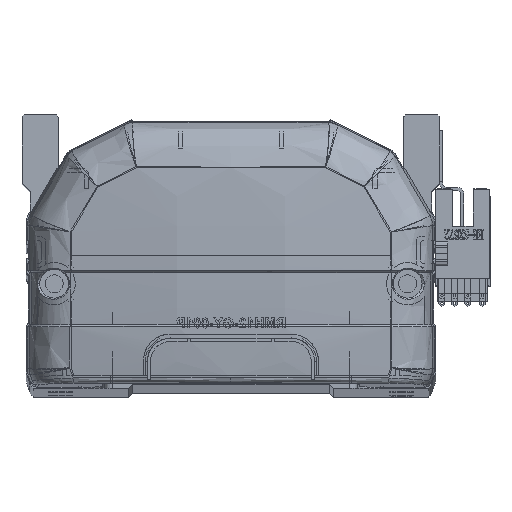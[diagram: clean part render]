
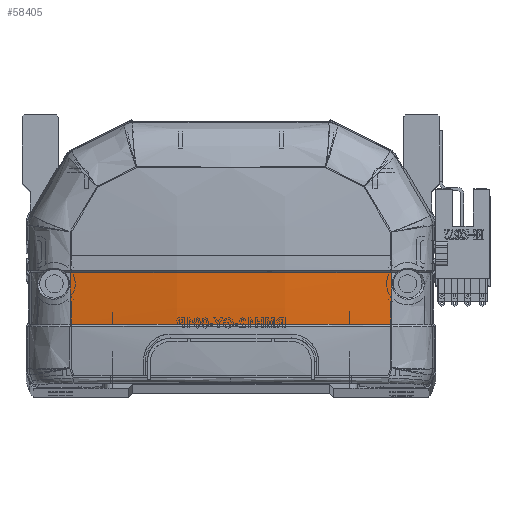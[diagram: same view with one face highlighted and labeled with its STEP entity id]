
A CAD part, top view. The second image highlights one B-rep face of the part: STEP entity #58405.
In plain terms, the highlighted free-form (B-spline) face has degree [3, 3] with [4, 4] control points.
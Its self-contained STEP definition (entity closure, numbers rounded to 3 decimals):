
#267 = CARTESIAN_POINT ( 'NONE',  ( -39.966, 24.412, -6.306 ) ) ;
#666 = CARTESIAN_POINT ( 'NONE',  ( -40.461, 20.111, -6.066 ) ) ;
#1075 = CARTESIAN_POINT ( 'NONE',  ( 13.598, 15.499, -10.032 ) ) ;
#1279 = CARTESIAN_POINT ( 'NONE',  ( -13.598, 15.499, -10.032 ) ) ;
#2257 = EDGE_CURVE ( 'NONE', #8873, #34744, #29351, .T. ) ;
#2942 = CARTESIAN_POINT ( 'NONE',  ( 13.38, 15.83, -8.984 ) ) ;
#2985 = ORIENTED_EDGE ( 'NONE', *, *, #26620, .T. ) ;
#3512 = ORIENTED_EDGE ( 'NONE', *, *, #37826, .T. ) ;
#4820 = CARTESIAN_POINT ( 'NONE',  ( 39.963, 28.706, -6.372 ) ) ;
#5305 = B_SPLINE_CURVE_WITH_KNOTS ( 'NONE', 3,
 ( #33678, #267, #56806, #57008 ),
 .UNSPECIFIED., .F., .F.,
 ( 4, 4 ),
 ( 0., 1. ),
 .UNSPECIFIED. ) ;
#5951 = CARTESIAN_POINT ( 'NONE',  ( 40.461, 28.832, -6.296 ) ) ;
#6714 = CARTESIAN_POINT ( 'NONE',  ( -39.963, 28.706, -6.372 ) ) ;
#7564 = ORIENTED_EDGE ( 'NONE', *, *, #2257, .F. ) ;
#7791 = B_SPLINE_CURVE_WITH_KNOTS ( 'NONE', 3,
 ( #18292, #55493, #14328, #23556, #56330, #9611 ),
 .UNSPECIFIED., .F., .F.,
 ( 4, 2, 4 ),
 ( 0., 0.5, 1. ),
 .UNSPECIFIED. ) ;
#8873 = VERTEX_POINT ( 'NONE', #51504 ) ;
#9611 = CARTESIAN_POINT ( 'NONE',  ( 39.963, 28.706, -6.372 ) ) ;
#10324 = VERTEX_POINT ( 'NONE', #6714 ) ;
#10330 = CARTESIAN_POINT ( 'NONE',  ( 39.973, 20.12, -6.142 ) ) ;
#11074 = CARTESIAN_POINT ( 'NONE',  ( -40.461, 24.47, -6.231 ) ) ;
#11596 = CARTESIAN_POINT ( 'NONE',  ( 39.963, 28.706, -6.372 ) ) ;
#14075 =( BOUNDED_SURFACE ( )  B_SPLINE_SURFACE ( 3, 3, ( 
 ( #43111, #15046, #56786, #5951 ),
 ( #1075, #47761, #19752, #34267 ),
 ( #1279, #43492, #28772, #15439 ),
 ( #48159, #666, #11074, #53659 ) ),
 .UNSPECIFIED., .F., .F., .F. ) 
 B_SPLINE_SURFACE_WITH_KNOTS ( ( 4, 4 ),
 ( 4, 4 ),
 ( 0., 1. ),
 ( 0., 1. ),
 .UNSPECIFIED. ) 
 GEOMETRIC_REPRESENTATION_ITEM ( )  RATIONAL_B_SPLINE_SURFACE ( (
 ( 1., 1., 1., 1.),
 ( 0.992, 0.992, 0.992, 0.992),
 ( 0.992, 0.992, 0.992, 0.992),
 ( 1., 1., 1., 1.) ) ) 
 REPRESENTATION_ITEM ( '' )  SURFACE ( )  );
#14328 = CARTESIAN_POINT ( 'NONE',  ( -13.373, 28.707, -9.468 ) ) ;
#15046 = CARTESIAN_POINT ( 'NONE',  ( 40.461, 20.111, -6.066 ) ) ;
#15439 = CARTESIAN_POINT ( 'NONE',  ( -13.598, 28.769, -10.535 ) ) ;
#18292 = CARTESIAN_POINT ( 'NONE',  ( -39.963, 28.706, -6.372 ) ) ;
#19752 = CARTESIAN_POINT ( 'NONE',  ( 13.598, 24.342, -10.47 ) ) ;
#20234 = ORIENTED_EDGE ( 'NONE', *, *, #58622, .F. ) ;
#23556 = CARTESIAN_POINT ( 'NONE',  ( 13.375, 28.707, -9.468 ) ) ;
#24438 = CARTESIAN_POINT ( 'NONE',  ( -39.985, 15.83, -5.879 ) ) ;
#26620 = EDGE_CURVE ( 'NONE', #10324, #34744, #5305, .T. ) ;
#26932 = CARTESIAN_POINT ( 'NONE',  ( -13.384, 15.83, -8.724 ) ) ;
#28271 = B_SPLINE_CURVE_WITH_KNOTS ( 'NONE', 3,
 ( #42754, #10330, #28445, #4820 ),
 .UNSPECIFIED., .F., .F.,
 ( 4, 4 ),
 ( 0., 1. ),
 .UNSPECIFIED. ) ;
#28445 = CARTESIAN_POINT ( 'NONE',  ( 39.966, 24.413, -6.306 ) ) ;
#28772 = CARTESIAN_POINT ( 'NONE',  ( -13.598, 24.342, -10.47 ) ) ;
#29351 = B_SPLINE_CURVE_WITH_KNOTS ( 'NONE', 3,
 ( #36350, #55157, #2942, #59274, #26932, #50036, #36550, #31650, #59874, #54333 ),
 .UNSPECIFIED., .F., .F.,
 ( 4, 2, 2, 2, 4 ),
 ( 0., 0.04, 0.06, 0.07, 0.08 ),
 .UNSPECIFIED. ) ;
#30377 = EDGE_LOOP ( 'NONE', ( #3512, #20234, #2985, #7564 ) ) ;
#31650 = CARTESIAN_POINT ( 'NONE',  ( -33.365, 15.83, -6.848 ) ) ;
#33678 = CARTESIAN_POINT ( 'NONE',  ( -39.963, 28.706, -6.372 ) ) ;
#34267 = CARTESIAN_POINT ( 'NONE',  ( 13.598, 28.769, -10.535 ) ) ;
#34744 = VERTEX_POINT ( 'NONE', #24438 ) ;
#35030 = FACE_OUTER_BOUND ( 'NONE', #30377, .T. ) ;
#36350 = CARTESIAN_POINT ( 'NONE',  ( 39.985, 15.83, -5.879 ) ) ;
#36550 = CARTESIAN_POINT ( 'NONE',  ( -26.721, 15.83, -7.624 ) ) ;
#37826 = EDGE_CURVE ( 'NONE', #8873, #39119, #28271, .T. ) ;
#39119 = VERTEX_POINT ( 'NONE', #11596 ) ;
#42754 = CARTESIAN_POINT ( 'NONE',  ( 39.985, 15.83, -5.879 ) ) ;
#43111 = CARTESIAN_POINT ( 'NONE',  ( 40.461, 15.757, -5.8 ) ) ;
#43492 = CARTESIAN_POINT ( 'NONE',  ( -13.598, 19.918, -10.302 ) ) ;
#47761 = CARTESIAN_POINT ( 'NONE',  ( 13.598, 19.918, -10.302 ) ) ;
#48159 = CARTESIAN_POINT ( 'NONE',  ( -40.461, 15.757, -5.8 ) ) ;
#50036 = CARTESIAN_POINT ( 'NONE',  ( -23.389, 15.83, -7.947 ) ) ;
#51504 = CARTESIAN_POINT ( 'NONE',  ( 39.985, 15.83, -5.879 ) ) ;
#53659 = CARTESIAN_POINT ( 'NONE',  ( -40.461, 28.832, -6.296 ) ) ;
#54333 = CARTESIAN_POINT ( 'NONE',  ( -39.985, 15.83, -5.879 ) ) ;
#55157 = CARTESIAN_POINT ( 'NONE',  ( 26.761, 15.83, -7.945 ) ) ;
#55493 = CARTESIAN_POINT ( 'NONE',  ( -26.748, 28.706, -8.432 ) ) ;
#56330 = CARTESIAN_POINT ( 'NONE',  ( 26.749, 28.706, -8.432 ) ) ;
#56786 = CARTESIAN_POINT ( 'NONE',  ( 40.461, 24.47, -6.231 ) ) ;
#56806 = CARTESIAN_POINT ( 'NONE',  ( -39.973, 20.118, -6.142 ) ) ;
#57008 = CARTESIAN_POINT ( 'NONE',  ( -39.985, 15.83, -5.879 ) ) ;
#58405 = ADVANCED_FACE ( 'NONE', ( #35030 ), #14075, .F. ) ;
#58622 = EDGE_CURVE ( 'NONE', #10324, #39119, #7791, .T. ) ;
#59274 = CARTESIAN_POINT ( 'NONE',  ( -6.692, 15.83, -8.984 ) ) ;
#59874 = CARTESIAN_POINT ( 'NONE',  ( -36.679, 15.83, -6.395 ) ) ;
